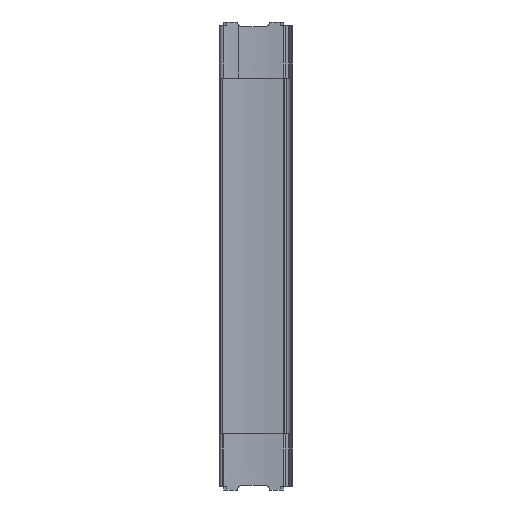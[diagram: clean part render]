
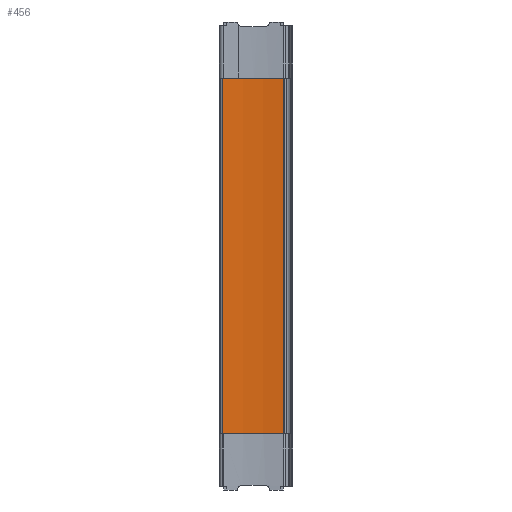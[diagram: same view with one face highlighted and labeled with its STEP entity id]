
A CAD part, left-side view. The second image highlights one B-rep face of the part: STEP entity #456.
In plain terms, the highlighted cylindrical face has radius 250 mm (diameter 500 mm), a partial arc.
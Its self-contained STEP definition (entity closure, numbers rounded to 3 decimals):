
#164 = EDGE_CURVE ( 'NONE', #2499, #4259, #911, .T. ) ;
#165 = EDGE_CURVE ( 'NONE', #4259, #4266, #920, .T. ) ;
#166 = EDGE_CURVE ( 'NONE', #4266, #2497, #908, .T. ) ;
#456 = ADVANCED_FACE ( 'NONE', ( #1042 ), #1018, .F. ) ;
#908 = CIRCLE ( 'NONE', #3979, 250. ) ;
#911 = CIRCLE ( 'NONE', #3983, 250. ) ;
#913 = VECTOR ( 'NONE', #1117, 1000. ) ;
#920 = LINE ( 'NONE', #1116, #913 ) ;
#1018 = CYLINDRICAL_SURFACE ( 'NONE', #4165, 250. ) ;
#1042 = FACE_OUTER_BOUND ( 'NONE', #2933, .T. ) ;
#1108 = CARTESIAN_POINT ( 'NONE',  ( -255.319, 48.963, 162.5 ) ) ;
#1113 = DIRECTION ( 'NONE',  ( 0., 0., -1. ) ) ;
#1114 = DIRECTION ( 'NONE',  ( 1., 0., 0. ) ) ;
#1116 = CARTESIAN_POINT ( 'NONE',  ( -8.643, 8.331, 168.5 ) ) ;
#1117 = DIRECTION ( 'NONE',  ( 0., 0., -1. ) ) ;
#1118 = CARTESIAN_POINT ( 'NONE',  ( -255.319, 48.963, -162.5 ) ) ;
#1120 = DIRECTION ( 'NONE',  ( 0., 0., 1. ) ) ;
#1121 = DIRECTION ( 'NONE',  ( -1., 0., 0. ) ) ;
#1340 = VECTOR ( 'NONE', #3807, 1000. ) ;
#1362 = LINE ( 'NONE', #3806, #1340 ) ;
#2142 = DIRECTION ( 'NONE',  ( -1., 0., 0. ) ) ;
#2143 = DIRECTION ( 'NONE',  ( 0., 0., -1. ) ) ;
#2144 = CARTESIAN_POINT ( 'NONE',  ( -255.319, 48.963, 168.5 ) ) ;
#2230 = CARTESIAN_POINT ( 'NONE',  ( -5.747, 63.571, -162.5 ) ) ;
#2232 = CARTESIAN_POINT ( 'NONE',  ( -5.747, 63.571, 162.5 ) ) ;
#2497 = VERTEX_POINT ( 'NONE', #2230 ) ;
#2499 = VERTEX_POINT ( 'NONE', #2232 ) ;
#2933 = EDGE_LOOP ( 'NONE', ( #3265, #3264, #3263, #3262 ) ) ;
#3262 = ORIENTED_EDGE ( 'NONE', *, *, #4345, .T. ) ;
#3263 = ORIENTED_EDGE ( 'NONE', *, *, #164, .F. ) ;
#3264 = ORIENTED_EDGE ( 'NONE', *, *, #165, .F. ) ;
#3265 = ORIENTED_EDGE ( 'NONE', *, *, #166, .F. ) ;
#3692 = CARTESIAN_POINT ( 'NONE',  ( -8.643, 8.331, 162.5 ) ) ;
#3699 = CARTESIAN_POINT ( 'NONE',  ( -8.643, 8.331, -162.5 ) ) ;
#3806 = CARTESIAN_POINT ( 'NONE',  ( -5.747, 63.571, 168.5 ) ) ;
#3807 = DIRECTION ( 'NONE',  ( 0., 0., -1. ) ) ;
#3979 = AXIS2_PLACEMENT_3D ( 'NONE', #1118, #1120, #1121 ) ;
#3983 = AXIS2_PLACEMENT_3D ( 'NONE', #1108, #1113, #1114 ) ;
#4165 = AXIS2_PLACEMENT_3D ( 'NONE', #2144, #2143, #2142 ) ;
#4259 = VERTEX_POINT ( 'NONE', #3692 ) ;
#4266 = VERTEX_POINT ( 'NONE', #3699 ) ;
#4345 = EDGE_CURVE ( 'NONE', #2499, #2497, #1362, .T. ) ;
